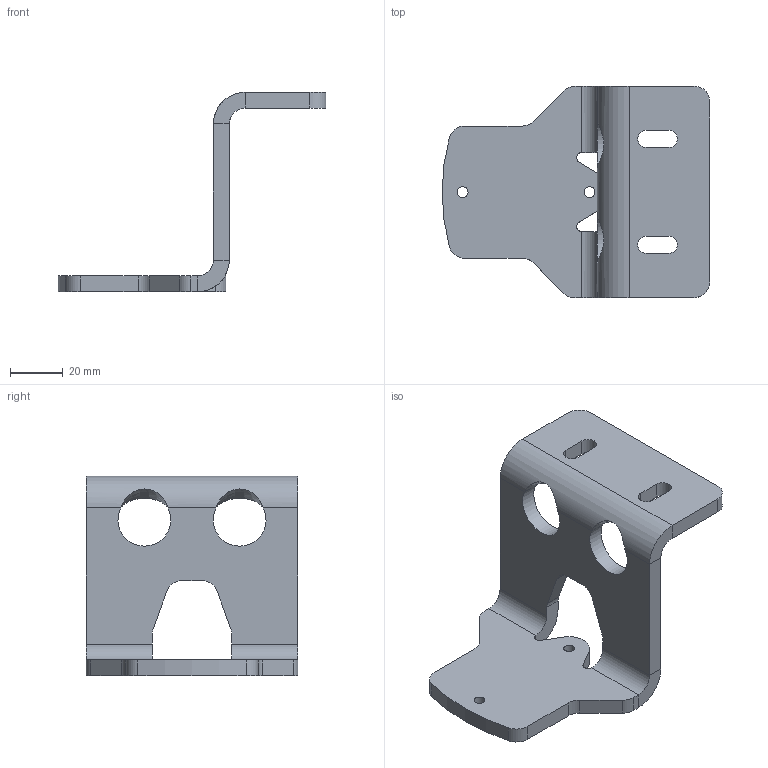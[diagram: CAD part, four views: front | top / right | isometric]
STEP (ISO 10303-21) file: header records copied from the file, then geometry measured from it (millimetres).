
FILE_DESCRIPTION(/* description */ (''),/* implementation_level */ '2;1');
FILE_NAME(/* name */ '2037685_A_Winkel PSENmg 70.stp',/* time_stamp */ '2025-04-10T09:29:08+02:00',/* author */ ('akli'),/* organization */ (''),/* preprocessor_version */ 'ST-DEVELOPER v20',/* originating_system */ 'Autodesk Inventor 2024',/* authorisation */ '');
FILE_SCHEMA (('AUTOMOTIVE_DESIGN { 1 0 10303 214 3 1 1 }'));
Length unit declared in the file: millimetre
Products named in the file (1): 2037685
Bounding box: 101.22 x 80 x 75.45 mm (x, y, z)
Volume: 60255.1 mm3; surface area: 24983.9 mm2
Topology: 1 solids, 1 shells, 64 faces, 184 edges, 116 vertices
Faces by surface type: plane 32, cylinder 30, bspline 2
Full cylindrical faces by diameter (mm): 4.134 x2
Entity records: 2336 total; most frequent: CARTESIAN_POINT 491, ORIENTED_EDGE 368, DIRECTION 362, EDGE_CURVE 184, AXIS2_PLACEMENT_3D 123, LINE 116, VECTOR 116, VERTEX_POINT 116
